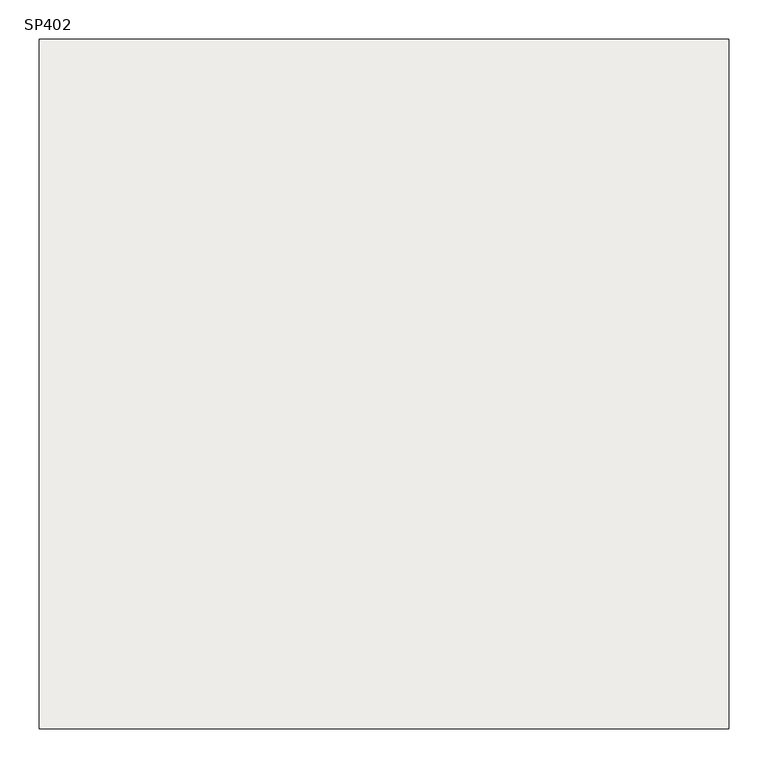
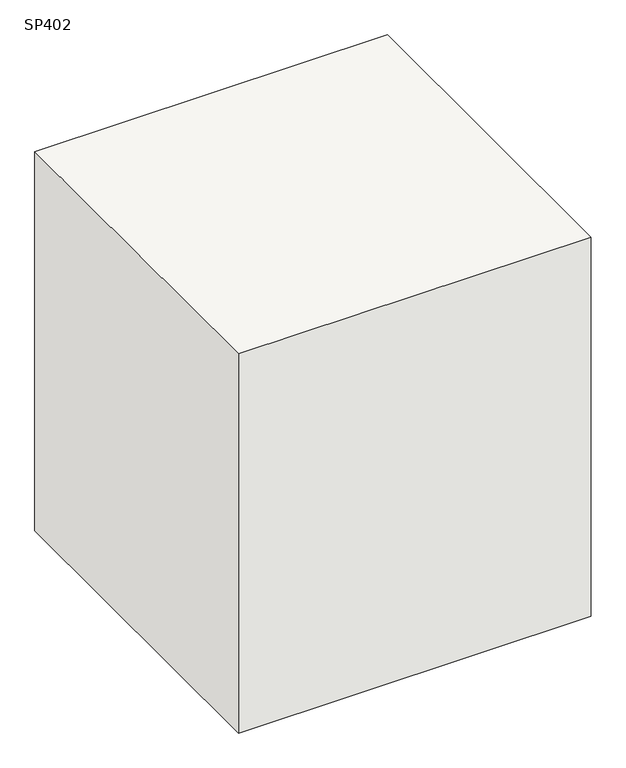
"""IFC4 building model written with IfcOpenShell, lengths in millimetres: slab geometry, 柱形_SP : SP402."""

from ifc_helpers import new_model, si_unit, frame, origin, place, context, project, spatial, polyline, outline, extrude, source, transform, mapped, element, save


def sp402_d799182d(model_context):
    return source(origin(), model_context, "Body", "SweptSolid", [
        extrude(outline(polyline([(440.0, 440.0), (440.0, -440.0), (-440.0, -440.0), (-440.0, 440.0), (440.0, 440.0)])), frame((0.0, 0.0, -1000.0), z_axis=(0.0, 0.0, 1.0), x_axis=(1.0, 0.0, 0.0)), (0.0, 0.0, 1.0), 1000.0),
    ])


if __name__ == "__main__":
    model = new_model("IFC4")
    model_context = context("Model", 3, world=origin())
    ifc_project = project(units=[si_unit("LENGTHUNIT", "METRE", prefix="MILLI")], contexts=[model_context])
    site = spatial("IfcSite", under=ifc_project)
    building = spatial("IfcBuilding", under=site)
    placement = place(None, origin())
    sp402_shape = sp402_d799182d(model_context)
    element("IfcSlab", 1, ObjectType="柱形_SP : SP402", at=placement, inside=building, context=model_context, shape_type="MappedRepresentation", body=[
        mapped(sp402_shape, transform((0.0, 0.0, 0.0), x_axis=(1.0, 0.0, 0.0), y_axis=(0.0, 1.0, 0.0), z_axis=(0.0, 0.0, 1.0))),
    ])
    save(model, "model.ifc")
